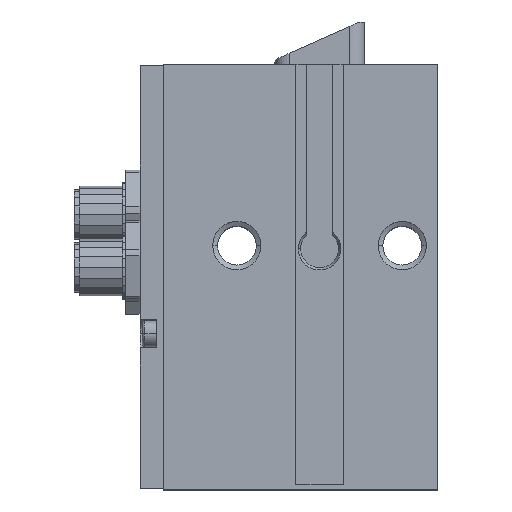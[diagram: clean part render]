
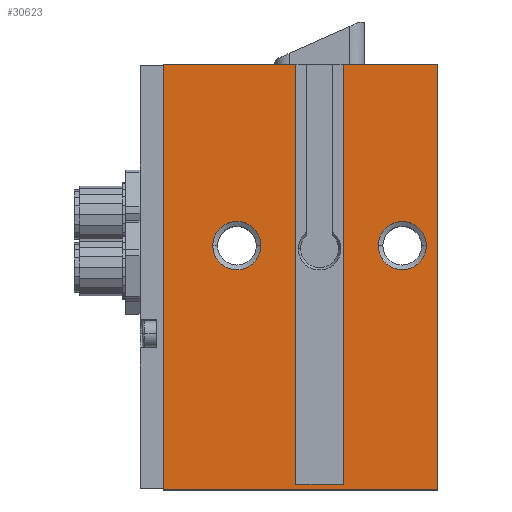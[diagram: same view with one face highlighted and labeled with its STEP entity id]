
A CAD part, top view. The second image highlights one B-rep face of the part: STEP entity #30623.
In plain terms, the highlighted planar face has unit normal (0, 0, 1).
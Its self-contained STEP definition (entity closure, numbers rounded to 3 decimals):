
#537 = ORIENTED_EDGE ( 'NONE', *, *, #25721, .F. ) ;
#664 = CARTESIAN_POINT ( 'NONE',  ( 0., 90., 40. ) ) ;
#880 = LINE ( 'NONE', #3307, #6658 ) ;
#1381 = DIRECTION ( 'NONE',  ( 0., 1., 0. ) ) ;
#1459 = CARTESIAN_POINT ( 'NONE',  ( 58., 0., 40. ) ) ;
#1759 = VERTEX_POINT ( 'NONE', #8777 ) ;
#2100 = ORIENTED_EDGE ( 'NONE', *, *, #25023, .T. ) ;
#2240 = VECTOR ( 'NONE', #11548, 1000. ) ;
#2362 = AXIS2_PLACEMENT_3D ( 'NONE', #3816, #18176, #13653 ) ;
#2551 = CARTESIAN_POINT ( 'NONE',  ( 50.5, 51.65, 40. ) ) ;
#2938 = CARTESIAN_POINT ( 'NONE',  ( 28., 1.1, 40. ) ) ;
#2973 = AXIS2_PLACEMENT_3D ( 'NONE', #2551, #3022, #25104 ) ;
#3022 = DIRECTION ( 'NONE',  ( 0., 0., 1. ) ) ;
#3248 = LINE ( 'NONE', #664, #29593 ) ;
#3307 = CARTESIAN_POINT ( 'NONE',  ( 0., 0., 40. ) ) ;
#3500 = LINE ( 'NONE', #11065, #26651 ) ;
#3502 = FACE_OUTER_BOUND ( 'NONE', #19354, .T. ) ;
#3536 = CARTESIAN_POINT ( 'NONE',  ( 0., 90., 40. ) ) ;
#3542 = DIRECTION ( 'NONE',  ( 1., 0., 0. ) ) ;
#3614 = CARTESIAN_POINT ( 'NONE',  ( 55.6, 51.65, 40. ) ) ;
#3816 = CARTESIAN_POINT ( 'NONE',  ( 0., 90., 40. ) ) ;
#4821 = CARTESIAN_POINT ( 'NONE',  ( 0., 90., 40. ) ) ;
#4876 = CIRCLE ( 'NONE', #25455, 5.1 ) ;
#5666 = VERTEX_POINT ( 'NONE', #3614 ) ;
#5836 = ORIENTED_EDGE ( 'NONE', *, *, #10147, .T. ) ;
#5983 = ORIENTED_EDGE ( 'NONE', *, *, #6390, .F. ) ;
#6239 = DIRECTION ( 'NONE',  ( 1., 0., 0. ) ) ;
#6390 = EDGE_CURVE ( 'NONE', #24776, #9750, #26156, .T. ) ;
#6568 = LINE ( 'NONE', #6729, #2240 ) ;
#6609 = AXIS2_PLACEMENT_3D ( 'NONE', #22376, #29468, #12548 ) ;
#6658 = VECTOR ( 'NONE', #28127, 1000. ) ;
#6729 = CARTESIAN_POINT ( 'NONE',  ( 28., 51., 40. ) ) ;
#6785 = CARTESIAN_POINT ( 'NONE',  ( 58., 0., 40. ) ) ;
#7110 = ORIENTED_EDGE ( 'NONE', *, *, #15126, .F. ) ;
#8071 = EDGE_CURVE ( 'NONE', #25552, #24404, #880, .T. ) ;
#8368 = VECTOR ( 'NONE', #23674, 1000. ) ;
#8777 = CARTESIAN_POINT ( 'NONE',  ( 58., 90., 40. ) ) ;
#8882 = DIRECTION ( 'NONE',  ( 0., 1., 0. ) ) ;
#9344 = EDGE_CURVE ( 'NONE', #16626, #10187, #22714, .T. ) ;
#9750 = VERTEX_POINT ( 'NONE', #23783 ) ;
#10147 = EDGE_CURVE ( 'NONE', #10187, #25552, #13851, .T. ) ;
#10187 = VERTEX_POINT ( 'NONE', #4821 ) ;
#10506 = DIRECTION ( 'NONE',  ( -1., 0., 0. ) ) ;
#10672 = CARTESIAN_POINT ( 'NONE',  ( 0., 0., 40. ) ) ;
#10720 = CARTESIAN_POINT ( 'NONE',  ( 28., 90., 40. ) ) ;
#11065 = CARTESIAN_POINT ( 'NONE',  ( 0., 1.1, 40. ) ) ;
#11068 = PLANE ( 'NONE',  #2362 ) ;
#11548 = DIRECTION ( 'NONE',  ( 0., 1., 0. ) ) ;
#11588 = DIRECTION ( 'NONE',  ( 1., 0., 0. ) ) ;
#12069 = EDGE_CURVE ( 'NONE', #24961, #16626, #6568, .T. ) ;
#12249 = ORIENTED_EDGE ( 'NONE', *, *, #16929, .F. ) ;
#12548 = DIRECTION ( 'NONE',  ( 1., 0., 0. ) ) ;
#13169 = VECTOR ( 'NONE', #8882, 1000. ) ;
#13586 = ORIENTED_EDGE ( 'NONE', *, *, #28042, .T. ) ;
#13653 = DIRECTION ( 'NONE',  ( -1., 0., 0. ) ) ;
#13851 = LINE ( 'NONE', #10672, #8368 ) ;
#14009 = DIRECTION ( 'NONE',  ( 0., 0., 1. ) ) ;
#15126 = EDGE_CURVE ( 'NONE', #5666, #30796, #22557, .T. ) ;
#15275 = EDGE_CURVE ( 'NONE', #24961, #16803, #3500, .T. ) ;
#15446 = FACE_BOUND ( 'NONE', #18732, .T. ) ;
#15590 = LINE ( 'NONE', #25581, #27046 ) ;
#15765 = ORIENTED_EDGE ( 'NONE', *, *, #26185, .F. ) ;
#16111 = DIRECTION ( 'NONE',  ( 0., 0., 1. ) ) ;
#16626 = VERTEX_POINT ( 'NONE', #10720 ) ;
#16803 = VERTEX_POINT ( 'NONE', #28596 ) ;
#16846 = ORIENTED_EDGE ( 'NONE', *, *, #15275, .F. ) ;
#16929 = EDGE_CURVE ( 'NONE', #30796, #5666, #30857, .T. ) ;
#17859 = FACE_BOUND ( 'NONE', #18428, .T. ) ;
#18028 = VECTOR ( 'NONE', #30446, 1000. ) ;
#18176 = DIRECTION ( 'NONE',  ( 0., 0., -1. ) ) ;
#18428 = EDGE_LOOP ( 'NONE', ( #7110, #12249 ) ) ;
#18732 = EDGE_LOOP ( 'NONE', ( #5983, #15765 ) ) ;
#19354 = EDGE_LOOP ( 'NONE', ( #13586, #2100, #537, #16846, #22986, #22705, #5836, #31423 ) ) ;
#21085 = AXIS2_PLACEMENT_3D ( 'NONE', #28520, #14009, #11588 ) ;
#21698 = CARTESIAN_POINT ( 'NONE',  ( 45.4, 51.65, 40. ) ) ;
#22376 = CARTESIAN_POINT ( 'NONE',  ( 15.5, 51.65, 40. ) ) ;
#22465 = VERTEX_POINT ( 'NONE', #31222 ) ;
#22557 = CIRCLE ( 'NONE', #2973, 5.1 ) ;
#22705 = ORIENTED_EDGE ( 'NONE', *, *, #9344, .T. ) ;
#22714 = LINE ( 'NONE', #3536, #18028 ) ;
#22986 = ORIENTED_EDGE ( 'NONE', *, *, #12069, .T. ) ;
#23674 = DIRECTION ( 'NONE',  ( 0., -1., 0. ) ) ;
#23783 = CARTESIAN_POINT ( 'NONE',  ( 10.4, 51.65, 40. ) ) ;
#24404 = VERTEX_POINT ( 'NONE', #6785 ) ;
#24776 = VERTEX_POINT ( 'NONE', #28103 ) ;
#24961 = VERTEX_POINT ( 'NONE', #2938 ) ;
#25023 = EDGE_CURVE ( 'NONE', #1759, #22465, #3248, .T. ) ;
#25097 = CARTESIAN_POINT ( 'NONE',  ( 0., 0., 40. ) ) ;
#25104 = DIRECTION ( 'NONE',  ( 1., 0., 0. ) ) ;
#25455 = AXIS2_PLACEMENT_3D ( 'NONE', #30613, #16111, #3542 ) ;
#25552 = VERTEX_POINT ( 'NONE', #25097 ) ;
#25581 = CARTESIAN_POINT ( 'NONE',  ( 38., 51., 40. ) ) ;
#25721 = EDGE_CURVE ( 'NONE', #16803, #22465, #15590, .T. ) ;
#26156 = CIRCLE ( 'NONE', #6609, 5.1 ) ;
#26185 = EDGE_CURVE ( 'NONE', #9750, #24776, #4876, .T. ) ;
#26651 = VECTOR ( 'NONE', #6239, 1000. ) ;
#27046 = VECTOR ( 'NONE', #1381, 1000. ) ;
#28042 = EDGE_CURVE ( 'NONE', #24404, #1759, #30957, .T. ) ;
#28103 = CARTESIAN_POINT ( 'NONE',  ( 20.6, 51.65, 40. ) ) ;
#28127 = DIRECTION ( 'NONE',  ( 1., 0., 0. ) ) ;
#28520 = CARTESIAN_POINT ( 'NONE',  ( 50.5, 51.65, 40. ) ) ;
#28596 = CARTESIAN_POINT ( 'NONE',  ( 38., 1.1, 40. ) ) ;
#29468 = DIRECTION ( 'NONE',  ( 0., 0., 1. ) ) ;
#29593 = VECTOR ( 'NONE', #10506, 1000. ) ;
#30446 = DIRECTION ( 'NONE',  ( -1., 0., 0. ) ) ;
#30613 = CARTESIAN_POINT ( 'NONE',  ( 15.5, 51.65, 40. ) ) ;
#30623 = ADVANCED_FACE ( 'NONE', ( #3502, #17859, #15446 ), #11068, .F. ) ;
#30796 = VERTEX_POINT ( 'NONE', #21698 ) ;
#30857 = CIRCLE ( 'NONE', #21085, 5.1 ) ;
#30957 = LINE ( 'NONE', #1459, #13169 ) ;
#31222 = CARTESIAN_POINT ( 'NONE',  ( 38., 90., 40. ) ) ;
#31423 = ORIENTED_EDGE ( 'NONE', *, *, #8071, .T. ) ;
